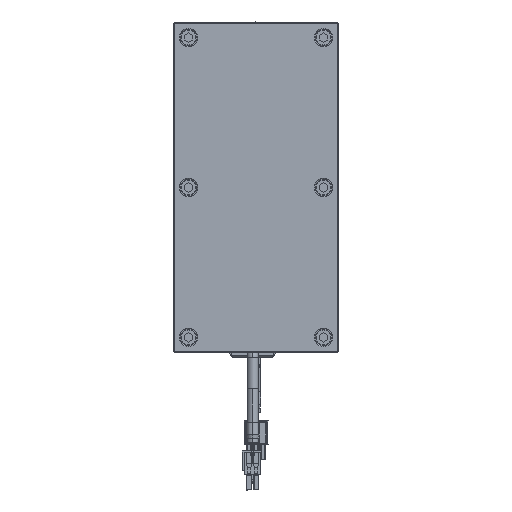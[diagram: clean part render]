
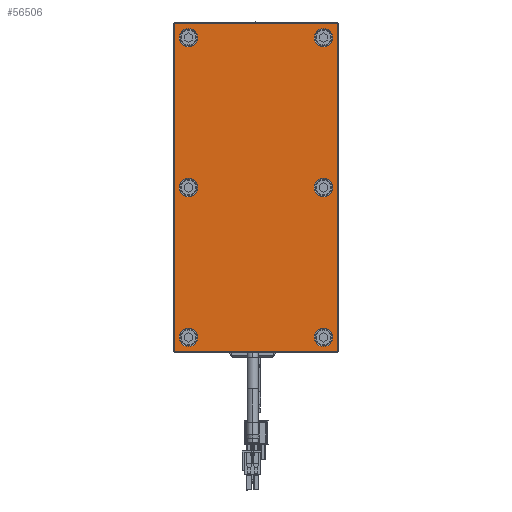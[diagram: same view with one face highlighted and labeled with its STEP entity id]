
A CAD part, front view. The second image highlights one B-rep face of the part: STEP entity #56506.
In plain terms, the highlighted planar face has unit normal (0, -1, 0).
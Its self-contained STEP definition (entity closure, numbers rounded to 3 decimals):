
#55123=CARTESIAN_POINT('',(99.,-7.,-49.));
#55124=DIRECTION('',(0.,-1.,0.));
#55125=DIRECTION('',(0.,0.,-1.));
#55126=AXIS2_PLACEMENT_3D('',#55123,#55124,#55125);
#55128=DIRECTION('',(1.,0.,0.));
#55129=VECTOR('',#55128,198.);
#55130=CARTESIAN_POINT('',(-99.,-7.,
-49.5));
#55131=LINE('',#55130,#55129);
#55132=CARTESIAN_POINT('',(-99.,-7.,-49.));
#55133=DIRECTION('',(0.,-1.,0.));
#55134=DIRECTION('',(-1.,0.,0.));
#55135=AXIS2_PLACEMENT_3D('',#55132,#55133,#55134);
#55137=DIRECTION('',(0.,0.,-1.));
#55138=VECTOR('',#55137,98.);
#55139=CARTESIAN_POINT('',(-99.5,-7.,
49.));
#55140=LINE('',#55139,#55138);
#55141=CARTESIAN_POINT('',(-99.,-7.,49.));
#55142=DIRECTION('',(0.,-1.,0.));
#55143=DIRECTION('',(0.,0.,1.));
#55144=AXIS2_PLACEMENT_3D('',#55141,#55142,#55143);
#55146=DIRECTION('',(-1.,0.,0.));
#55147=VECTOR('',#55146,198.);
#55148=CARTESIAN_POINT('',(99.,-7.,
49.5));
#55149=LINE('',#55148,#55147);
#55150=CARTESIAN_POINT('',(99.,-7.,49.));
#55151=DIRECTION('',(0.,-1.,0.));
#55152=DIRECTION('',(1.,0.,0.));
#55153=AXIS2_PLACEMENT_3D('',#55150,#55151,#55152);
#55155=DIRECTION('',(0.,0.,1.));
#55156=VECTOR('',#55155,98.);
#55157=CARTESIAN_POINT('',(99.5,-7.,
-49.));
#55158=LINE('',#55157,#55156);
#55159=CARTESIAN_POINT('',(-91.,-7.,-41.));
#55160=DIRECTION('',(0.,1.,0.));
#55161=DIRECTION('',(1.,0.,0.));
#55162=AXIS2_PLACEMENT_3D('',#55159,#55160,#55161);
#55164=CARTESIAN_POINT('',(-91.,-7.,-41.));
#55165=DIRECTION('',(0.,1.,0.));
#55166=DIRECTION('',(-1.,0.,0.));
#55167=AXIS2_PLACEMENT_3D('',#55164,#55165,#55166);
#55169=CARTESIAN_POINT('',(0.,-7.,-41.));
#55170=DIRECTION('',(0.,1.,0.));
#55171=DIRECTION('',(1.,0.,0.));
#55172=AXIS2_PLACEMENT_3D('',#55169,#55170,#55171);
#55174=CARTESIAN_POINT('',(0.,-7.,-41.));
#55175=DIRECTION('',(0.,1.,0.));
#55176=DIRECTION('',(-1.,0.,0.));
#55177=AXIS2_PLACEMENT_3D('',#55174,#55175,#55176);
#55179=CARTESIAN_POINT('',(91.,-7.,-41.));
#55180=DIRECTION('',(0.,1.,0.));
#55181=DIRECTION('',(1.,0.,0.));
#55182=AXIS2_PLACEMENT_3D('',#55179,#55180,#55181);
#55184=CARTESIAN_POINT('',(91.,-7.,-41.));
#55185=DIRECTION('',(0.,1.,0.));
#55186=DIRECTION('',(-1.,0.,0.));
#55187=AXIS2_PLACEMENT_3D('',#55184,#55185,#55186);
#55189=CARTESIAN_POINT('',(91.,-7.,41.));
#55190=DIRECTION('',(0.,1.,0.));
#55191=DIRECTION('',(1.,0.,0.));
#55192=AXIS2_PLACEMENT_3D('',#55189,#55190,#55191);
#55194=CARTESIAN_POINT('',(91.,-7.,41.));
#55195=DIRECTION('',(0.,1.,0.));
#55196=DIRECTION('',(-1.,0.,0.));
#55197=AXIS2_PLACEMENT_3D('',#55194,#55195,#55196);
#55199=CARTESIAN_POINT('',(0.,-7.,41.));
#55200=DIRECTION('',(0.,1.,0.));
#55201=DIRECTION('',(1.,0.,0.));
#55202=AXIS2_PLACEMENT_3D('',#55199,#55200,#55201);
#55204=CARTESIAN_POINT('',(0.,-7.,41.));
#55205=DIRECTION('',(0.,1.,0.));
#55206=DIRECTION('',(-1.,0.,0.));
#55207=AXIS2_PLACEMENT_3D('',#55204,#55205,#55206);
#55209=CARTESIAN_POINT('',(-91.,-7.,41.));
#55210=DIRECTION('',(0.,1.,0.));
#55211=DIRECTION('',(1.,0.,0.));
#55212=AXIS2_PLACEMENT_3D('',#55209,#55210,#55211);
#55214=CARTESIAN_POINT('',(-91.,-7.,41.));
#55215=DIRECTION('',(0.,1.,0.));
#55216=DIRECTION('',(-1.,0.,0.));
#55217=AXIS2_PLACEMENT_3D('',#55214,#55215,#55216);
#56247=CARTESIAN_POINT('',(99.,-7.,-49.5));
#56248=CARTESIAN_POINT('',(99.5,-7.,-49.));
#56249=VERTEX_POINT('',#56247);
#56250=VERTEX_POINT('',#56248);
#56255=CARTESIAN_POINT('',(99.5,-7.,
49.));
#56256=VERTEX_POINT('',#56255);
#56259=CARTESIAN_POINT('',(99.,-7.,49.5));
#56260=VERTEX_POINT('',#56259);
#56263=CARTESIAN_POINT('',(-99.,-7.,
49.5));
#56264=VERTEX_POINT('',#56263);
#56267=CARTESIAN_POINT('',(-99.5,-7.,49.));
#56268=VERTEX_POINT('',#56267);
#56271=CARTESIAN_POINT('',(-99.5,-7.,
-49.));
#56272=VERTEX_POINT('',#56271);
#56275=CARTESIAN_POINT('',(-99.,-7.,-49.5));
#56276=VERTEX_POINT('',#56275);
#56303=CARTESIAN_POINT('',(-85.45,-7.,-41.));
#56304=CARTESIAN_POINT('',(-96.55,-7.,-41.));
#56305=VERTEX_POINT('',#56303);
#56306=VERTEX_POINT('',#56304);
#56319=CARTESIAN_POINT('',(5.55,-7.,-41.));
#56320=CARTESIAN_POINT('',(-5.55,-7.,-41.));
#56321=VERTEX_POINT('',#56319);
#56322=VERTEX_POINT('',#56320);
#56343=CARTESIAN_POINT('',(96.55,-7.,-41.));
#56344=CARTESIAN_POINT('',(85.45,-7.,-41.));
#56345=VERTEX_POINT('',#56343);
#56346=VERTEX_POINT('',#56344);
#56359=CARTESIAN_POINT('',(96.55,-7.,41.));
#56360=CARTESIAN_POINT('',(85.45,-7.,41.));
#56361=VERTEX_POINT('',#56359);
#56362=VERTEX_POINT('',#56360);
#56367=CARTESIAN_POINT('',(5.55,-7.,41.));
#56368=CARTESIAN_POINT('',(-5.55,-7.,41.));
#56369=VERTEX_POINT('',#56367);
#56370=VERTEX_POINT('',#56368);
#56391=CARTESIAN_POINT('',(-85.45,-7.,41.));
#56392=CARTESIAN_POINT('',(-96.55,-7.,41.));
#56393=VERTEX_POINT('',#56391);
#56394=VERTEX_POINT('',#56392);
#56447=CARTESIAN_POINT('',(0.,-7.,0.));
#56448=DIRECTION('',(0.,1.,0.));
#56449=DIRECTION('',(1.,0.,0.));
#56450=AXIS2_PLACEMENT_3D('',#56447,#56448,#56449);
#56451=PLANE('',#56450);
#56453=ORIENTED_EDGE('',*,*,#56452,.F.);
#56455=ORIENTED_EDGE('',*,*,#56454,.F.);
#56457=ORIENTED_EDGE('',*,*,#56456,.F.);
#56459=ORIENTED_EDGE('',*,*,#56458,.F.);
#56461=ORIENTED_EDGE('',*,*,#56460,.F.);
#56463=ORIENTED_EDGE('',*,*,#56462,.F.);
#56465=ORIENTED_EDGE('',*,*,#56464,.F.);
#56467=ORIENTED_EDGE('',*,*,#56466,.F.);
#56468=EDGE_LOOP('',(#56453,#56455,#56457,#56459,#56461,#56463,#56465,#56467));
#56469=FACE_OUTER_BOUND('',#56468,.F.);
#56471=ORIENTED_EDGE('',*,*,#56470,.F.);
#56473=ORIENTED_EDGE('',*,*,#56472,.F.);
#56474=EDGE_LOOP('',(#56471,#56473));
#56475=FACE_BOUND('',#56474,.F.);
#56477=ORIENTED_EDGE('',*,*,#56476,.F.);
#56479=ORIENTED_EDGE('',*,*,#56478,.F.);
#56480=EDGE_LOOP('',(#56477,#56479));
#56481=FACE_BOUND('',#56480,.F.);
#56483=ORIENTED_EDGE('',*,*,#56482,.F.);
#56485=ORIENTED_EDGE('',*,*,#56484,.F.);
#56486=EDGE_LOOP('',(#56483,#56485));
#56487=FACE_BOUND('',#56486,.F.);
#56489=ORIENTED_EDGE('',*,*,#56488,.F.);
#56491=ORIENTED_EDGE('',*,*,#56490,.F.);
#56492=EDGE_LOOP('',(#56489,#56491));
#56493=FACE_BOUND('',#56492,.F.);
#56495=ORIENTED_EDGE('',*,*,#56494,.F.);
#56497=ORIENTED_EDGE('',*,*,#56496,.F.);
#56498=EDGE_LOOP('',(#56495,#56497));
#56499=FACE_BOUND('',#56498,.F.);
#56501=ORIENTED_EDGE('',*,*,#56500,.F.);
#56503=ORIENTED_EDGE('',*,*,#56502,.F.);
#56504=EDGE_LOOP('',(#56501,#56503));
#56505=FACE_BOUND('',#56504,.F.);
#56506=ADVANCED_FACE('',(#56469,#56475,#56481,#56487,#56493,#56499,#56505),
#56451,.F.);
#55127=CIRCLE('',#55126,0.5);
#55136=CIRCLE('',#55135,0.5);
#55145=CIRCLE('',#55144,0.5);
#55154=CIRCLE('',#55153,0.5);
#55163=CIRCLE('',#55162,5.55);
#55168=CIRCLE('',#55167,5.55);
#55173=CIRCLE('',#55172,5.55);
#55178=CIRCLE('',#55177,5.55);
#55183=CIRCLE('',#55182,5.55);
#55188=CIRCLE('',#55187,5.55);
#55193=CIRCLE('',#55192,5.55);
#55198=CIRCLE('',#55197,5.55);
#55203=CIRCLE('',#55202,5.55);
#55208=CIRCLE('',#55207,5.55);
#55213=CIRCLE('',#55212,5.55);
#55218=CIRCLE('',#55217,5.55);
#56452=EDGE_CURVE('',#56249,#56250,#55127,.T.);
#56454=EDGE_CURVE('',#56276,#56249,#55131,.T.);
#56456=EDGE_CURVE('',#56272,#56276,#55136,.T.);
#56458=EDGE_CURVE('',#56268,#56272,#55140,.T.);
#56460=EDGE_CURVE('',#56264,#56268,#55145,.T.);
#56462=EDGE_CURVE('',#56260,#56264,#55149,.T.);
#56464=EDGE_CURVE('',#56256,#56260,#55154,.T.);
#56466=EDGE_CURVE('',#56250,#56256,#55158,.T.);
#56470=EDGE_CURVE('',#56305,#56306,#55163,.T.);
#56472=EDGE_CURVE('',#56306,#56305,#55168,.T.);
#56476=EDGE_CURVE('',#56321,#56322,#55173,.T.);
#56478=EDGE_CURVE('',#56322,#56321,#55178,.T.);
#56482=EDGE_CURVE('',#56345,#56346,#55183,.T.);
#56484=EDGE_CURVE('',#56346,#56345,#55188,.T.);
#56488=EDGE_CURVE('',#56361,#56362,#55193,.T.);
#56490=EDGE_CURVE('',#56362,#56361,#55198,.T.);
#56494=EDGE_CURVE('',#56369,#56370,#55203,.T.);
#56496=EDGE_CURVE('',#56370,#56369,#55208,.T.);
#56500=EDGE_CURVE('',#56393,#56394,#55213,.T.);
#56502=EDGE_CURVE('',#56394,#56393,#55218,.T.);
